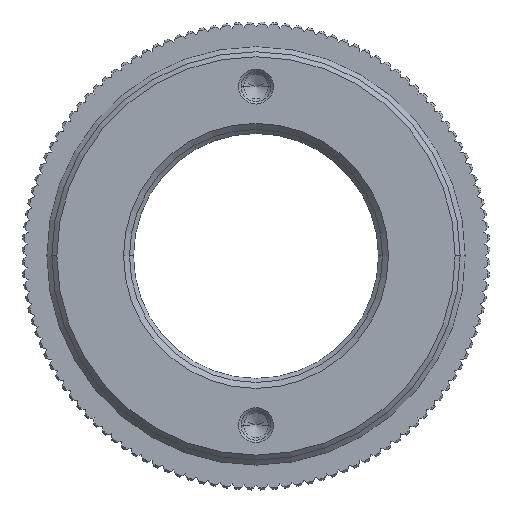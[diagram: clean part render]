
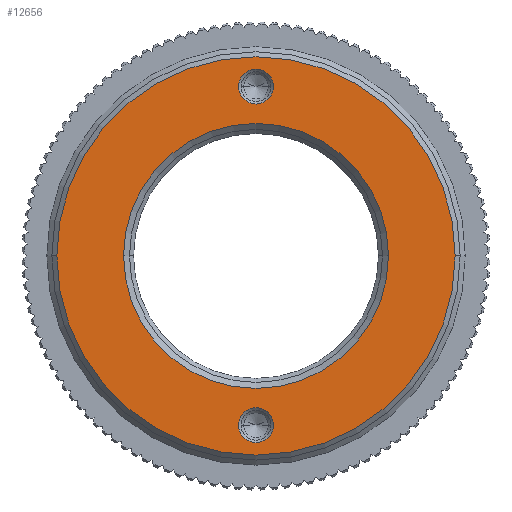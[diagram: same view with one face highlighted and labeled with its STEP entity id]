
A CAD part, top view. The second image highlights one B-rep face of the part: STEP entity #12656.
In plain terms, the highlighted planar face has unit normal (0, 0, 1).
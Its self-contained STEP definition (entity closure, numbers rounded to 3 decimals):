
#1008=CARTESIAN_POINT('',(0.,0.,-8.6));
#1009=DIRECTION('',(0.,0.,1.));
#1010=DIRECTION('',(1.,0.,0.));
#1011=AXIS2_PLACEMENT_3D('',#1008,#1009,#1010);
#1013=CARTESIAN_POINT('',(0.,0.,-8.6));
#1014=DIRECTION('',(0.,0.,1.));
#1015=DIRECTION('',(-1.,0.,0.));
#1016=AXIS2_PLACEMENT_3D('',#1013,#1014,#1015);
#1018=CARTESIAN_POINT('',(0.,0.,-8.6));
#1019=DIRECTION('',(0.,0.,-1.));
#1020=DIRECTION('',(1.,0.,0.));
#1021=AXIS2_PLACEMENT_3D('',#1018,#1019,#1020);
#1023=CARTESIAN_POINT('',(0.,0.,-8.6));
#1024=DIRECTION('',(0.,0.,-1.));
#1025=DIRECTION('',(-1.,0.,0.));
#1026=AXIS2_PLACEMENT_3D('',#1023,#1024,#1025);
#1028=CARTESIAN_POINT('',(0.,17.,-8.6));
#1029=DIRECTION('',(0.,0.,-1.));
#1030=DIRECTION('',(1.,0.,0.));
#1031=AXIS2_PLACEMENT_3D('',#1028,#1029,#1030);
#1033=CARTESIAN_POINT('',(0.,17.,-8.6));
#1034=DIRECTION('',(0.,0.,-1.));
#1035=DIRECTION('',(-1.,0.,0.));
#1036=AXIS2_PLACEMENT_3D('',#1033,#1034,#1035);
#1038=CARTESIAN_POINT('',(0.,-17.,-8.6));
#1039=DIRECTION('',(0.,0.,-1.));
#1040=DIRECTION('',(1.,0.,0.));
#1041=AXIS2_PLACEMENT_3D('',#1038,#1039,#1040);
#1043=CARTESIAN_POINT('',(0.,-17.,-8.6));
#1044=DIRECTION('',(0.,0.,-1.));
#1045=DIRECTION('',(-1.,0.,0.));
#1046=AXIS2_PLACEMENT_3D('',#1043,#1044,#1045);
#9472=CARTESIAN_POINT('',(20.,0.,-8.6));
#9473=CARTESIAN_POINT('',(-20.,0.,-8.6));
#9474=VERTEX_POINT('',#9472);
#9475=VERTEX_POINT('',#9473);
#11760=CARTESIAN_POINT('',(13.3,0.,-8.6));
#11761=CARTESIAN_POINT('',(-13.3,0.,-8.6));
#11762=VERTEX_POINT('',#11760);
#11763=VERTEX_POINT('',#11761);
#11788=CARTESIAN_POINT('',(1.75,17.,-8.6));
#11789=CARTESIAN_POINT('',(-1.75,17.,-8.6));
#11790=VERTEX_POINT('',#11788);
#11791=VERTEX_POINT('',#11789);
#11796=CARTESIAN_POINT('',(1.75,-17.,-8.6));
#11797=CARTESIAN_POINT('',(-1.75,-17.,-8.6));
#11798=VERTEX_POINT('',#11796);
#11799=VERTEX_POINT('',#11797);
#12628=CARTESIAN_POINT('',(0.,0.,-8.6));
#12629=DIRECTION('',(0.,0.,1.));
#12630=DIRECTION('',(1.,0.,0.));
#12631=AXIS2_PLACEMENT_3D('',#12628,#12629,#12630);
#12632=PLANE('',#12631);
#12633=ORIENTED_EDGE('',*,*,#12618,.F.);
#12635=ORIENTED_EDGE('',*,*,#12634,.F.);
#12636=EDGE_LOOP('',(#12633,#12635));
#12637=FACE_OUTER_BOUND('',#12636,.F.);
#12639=ORIENTED_EDGE('',*,*,#12638,.F.);
#12641=ORIENTED_EDGE('',*,*,#12640,.F.);
#12642=EDGE_LOOP('',(#12639,#12641));
#12643=FACE_BOUND('',#12642,.F.);
#12645=ORIENTED_EDGE('',*,*,#12644,.F.);
#12647=ORIENTED_EDGE('',*,*,#12646,.F.);
#12648=EDGE_LOOP('',(#12645,#12647));
#12649=FACE_BOUND('',#12648,.F.);
#12651=ORIENTED_EDGE('',*,*,#12650,.F.);
#12653=ORIENTED_EDGE('',*,*,#12652,.F.);
#12654=EDGE_LOOP('',(#12651,#12653));
#12655=FACE_BOUND('',#12654,.F.);
#12656=ADVANCED_FACE('',(#12637,#12643,#12649,#12655),#12632,.T.);
#1012=CIRCLE('',#1011,20.);
#1017=CIRCLE('',#1016,20.);
#1022=CIRCLE('',#1021,13.3);
#1027=CIRCLE('',#1026,13.3);
#1032=CIRCLE('',#1031,1.75);
#1037=CIRCLE('',#1036,1.75);
#1042=CIRCLE('',#1041,1.75);
#1047=CIRCLE('',#1046,1.75);
#12618=EDGE_CURVE('',#9474,#9475,#1012,.T.);
#12634=EDGE_CURVE('',#9475,#9474,#1017,.T.);
#12638=EDGE_CURVE('',#11762,#11763,#1022,.T.);
#12640=EDGE_CURVE('',#11763,#11762,#1027,.T.);
#12644=EDGE_CURVE('',#11790,#11791,#1032,.T.);
#12646=EDGE_CURVE('',#11791,#11790,#1037,.T.);
#12650=EDGE_CURVE('',#11798,#11799,#1042,.T.);
#12652=EDGE_CURVE('',#11799,#11798,#1047,.T.);
